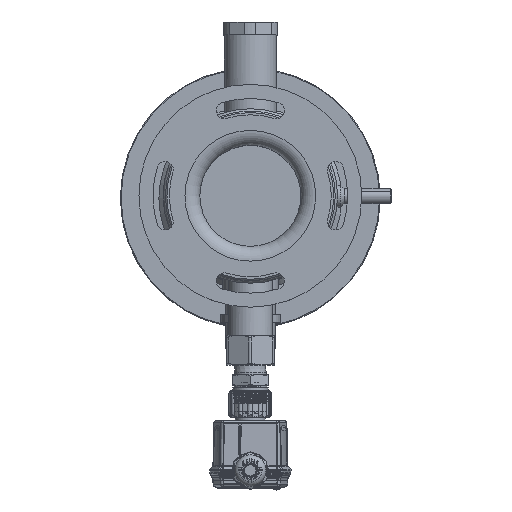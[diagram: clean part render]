
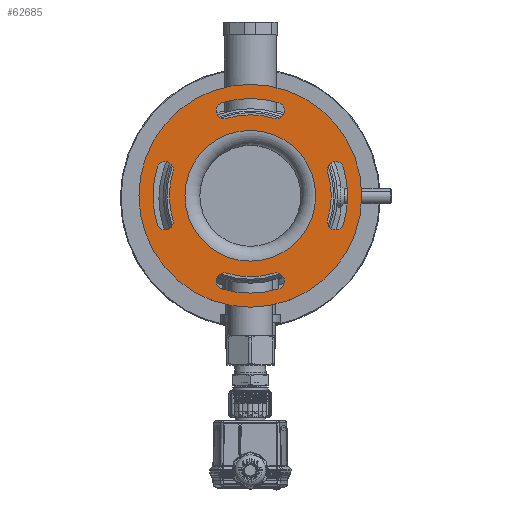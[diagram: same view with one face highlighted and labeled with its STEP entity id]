
A CAD part, top view. The second image highlights one B-rep face of the part: STEP entity #62685.
In plain terms, the highlighted planar face has unit normal (0, 0, 1).
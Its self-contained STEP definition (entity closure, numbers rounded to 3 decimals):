
#1534=FACE_BOUND('',#11766,.T.);
#1535=FACE_BOUND('',#11767,.T.);
#1536=FACE_BOUND('',#11768,.T.);
#1537=FACE_BOUND('',#11769,.T.);
#1538=FACE_BOUND('',#11770,.T.);
#5927=PLANE('',#66194);
#7911=FACE_OUTER_BOUND('',#11765,.T.);
#11765=EDGE_LOOP('',(#47229));
#11766=EDGE_LOOP('',(#47230,#47231,#47232,#47233));
#11767=EDGE_LOOP('',(#47234,#47235,#47236,#47237));
#11768=EDGE_LOOP('',(#47238,#47239,#47240,#47241));
#11769=EDGE_LOOP('',(#47242,#47243,#47244,#47245));
#11770=EDGE_LOOP('',(#47246));
#21691=CIRCLE('',#66161,75.);
#21718=CIRCLE('',#66193,44.);
#21719=CIRCLE('',#66195,5.5);
#21720=CIRCLE('',#66196,65.5);
#21721=CIRCLE('',#66197,5.5);
#21722=CIRCLE('',#66198,54.5);
#21723=CIRCLE('',#66199,5.5);
#21724=CIRCLE('',#66200,65.5);
#21725=CIRCLE('',#66201,5.5);
#21726=CIRCLE('',#66202,54.5);
#21727=CIRCLE('',#66203,5.5);
#21728=CIRCLE('',#66204,65.5);
#21729=CIRCLE('',#66205,5.5);
#21730=CIRCLE('',#66206,54.5);
#21731=CIRCLE('',#66207,5.5);
#21732=CIRCLE('',#66208,65.5);
#21733=CIRCLE('',#66209,5.5);
#21734=CIRCLE('',#66210,54.5);
#26575=VERTEX_POINT('',#116081);
#26600=VERTEX_POINT('',#116140);
#26601=VERTEX_POINT('',#116144);
#26602=VERTEX_POINT('',#116145);
#26603=VERTEX_POINT('',#116147);
#26604=VERTEX_POINT('',#116149);
#26605=VERTEX_POINT('',#116152);
#26606=VERTEX_POINT('',#116153);
#26607=VERTEX_POINT('',#116155);
#26608=VERTEX_POINT('',#116157);
#26609=VERTEX_POINT('',#116160);
#26610=VERTEX_POINT('',#116161);
#26611=VERTEX_POINT('',#116163);
#26612=VERTEX_POINT('',#116165);
#26613=VERTEX_POINT('',#116168);
#26614=VERTEX_POINT('',#116169);
#26615=VERTEX_POINT('',#116171);
#26616=VERTEX_POINT('',#116173);
#33832=EDGE_CURVE('',#26575,#26575,#21691,.T.);
#33862=EDGE_CURVE('',#26600,#26600,#21718,.T.);
#33863=EDGE_CURVE('',#26601,#26602,#21719,.T.);
#33864=EDGE_CURVE('',#26602,#26603,#21720,.T.);
#33865=EDGE_CURVE('',#26603,#26604,#21721,.T.);
#33866=EDGE_CURVE('',#26604,#26601,#21722,.T.);
#33867=EDGE_CURVE('',#26605,#26606,#21723,.T.);
#33868=EDGE_CURVE('',#26606,#26607,#21724,.T.);
#33869=EDGE_CURVE('',#26607,#26608,#21725,.T.);
#33870=EDGE_CURVE('',#26608,#26605,#21726,.T.);
#33871=EDGE_CURVE('',#26609,#26610,#21727,.T.);
#33872=EDGE_CURVE('',#26610,#26611,#21728,.T.);
#33873=EDGE_CURVE('',#26611,#26612,#21729,.T.);
#33874=EDGE_CURVE('',#26612,#26609,#21730,.T.);
#33875=EDGE_CURVE('',#26613,#26614,#21731,.T.);
#33876=EDGE_CURVE('',#26614,#26615,#21732,.T.);
#33877=EDGE_CURVE('',#26615,#26616,#21733,.T.);
#33878=EDGE_CURVE('',#26616,#26613,#21734,.T.);
#47229=ORIENTED_EDGE('',*,*,#33832,.T.);
#47230=ORIENTED_EDGE('',*,*,#33863,.T.);
#47231=ORIENTED_EDGE('',*,*,#33864,.T.);
#47232=ORIENTED_EDGE('',*,*,#33865,.T.);
#47233=ORIENTED_EDGE('',*,*,#33866,.T.);
#47234=ORIENTED_EDGE('',*,*,#33867,.T.);
#47235=ORIENTED_EDGE('',*,*,#33868,.T.);
#47236=ORIENTED_EDGE('',*,*,#33869,.T.);
#47237=ORIENTED_EDGE('',*,*,#33870,.T.);
#47238=ORIENTED_EDGE('',*,*,#33871,.T.);
#47239=ORIENTED_EDGE('',*,*,#33872,.T.);
#47240=ORIENTED_EDGE('',*,*,#33873,.T.);
#47241=ORIENTED_EDGE('',*,*,#33874,.T.);
#47242=ORIENTED_EDGE('',*,*,#33875,.T.);
#47243=ORIENTED_EDGE('',*,*,#33876,.T.);
#47244=ORIENTED_EDGE('',*,*,#33877,.T.);
#47245=ORIENTED_EDGE('',*,*,#33878,.T.);
#47246=ORIENTED_EDGE('',*,*,#33862,.F.);
#62685=ADVANCED_FACE('',(#7911,#1534,#1535,#1536,#1537,#1538),#5927,.T.);
#66161=AXIS2_PLACEMENT_3D('',#116082,#74554,#74555);
#66193=AXIS2_PLACEMENT_3D('',#116142,#74621,#74622);
#66194=AXIS2_PLACEMENT_3D('',#116143,#74623,#74624);
#66195=AXIS2_PLACEMENT_3D('',#116146,#74625,#74626);
#66196=AXIS2_PLACEMENT_3D('',#116148,#74627,#74628);
#66197=AXIS2_PLACEMENT_3D('',#116150,#74629,#74630);
#66198=AXIS2_PLACEMENT_3D('',#116151,#74631,#74632);
#66199=AXIS2_PLACEMENT_3D('',#116154,#74633,#74634);
#66200=AXIS2_PLACEMENT_3D('',#116156,#74635,#74636);
#66201=AXIS2_PLACEMENT_3D('',#116158,#74637,#74638);
#66202=AXIS2_PLACEMENT_3D('',#116159,#74639,#74640);
#66203=AXIS2_PLACEMENT_3D('',#116162,#74641,#74642);
#66204=AXIS2_PLACEMENT_3D('',#116164,#74643,#74644);
#66205=AXIS2_PLACEMENT_3D('',#116166,#74645,#74646);
#66206=AXIS2_PLACEMENT_3D('',#116167,#74647,#74648);
#66207=AXIS2_PLACEMENT_3D('',#116170,#74649,#74650);
#66208=AXIS2_PLACEMENT_3D('',#116172,#74651,#74652);
#66209=AXIS2_PLACEMENT_3D('',#116174,#74653,#74654);
#66210=AXIS2_PLACEMENT_3D('',#116175,#74655,#74656);
#74554=DIRECTION('center_axis',(0.,0.,
1.));
#74555=DIRECTION('ref_axis',(-1.,0.,0.));
#74621=DIRECTION('center_axis',(0.,0.,
1.));
#74622=DIRECTION('ref_axis',(-1.,0.,0.));
#74623=DIRECTION('center_axis',(0.,0.,
1.));
#74624=DIRECTION('ref_axis',(0.,1.,0.));
#74625=DIRECTION('center_axis',(0.,0.,
-1.));
#74626=DIRECTION('ref_axis',(-0.292,0.957,0.));
#74627=DIRECTION('center_axis',(0.,0.,
-1.));
#74628=DIRECTION('ref_axis',(0.292,0.957,0.));
#74629=DIRECTION('center_axis',(0.,0.,
-1.));
#74630=DIRECTION('ref_axis',(-0.292,-0.957,0.));
#74631=DIRECTION('center_axis',(0.,0.,
1.));
#74632=DIRECTION('ref_axis',(-0.292,-0.957,0.));
#74633=DIRECTION('center_axis',(0.,0.,
-1.));
#74634=DIRECTION('ref_axis',(0.292,-0.957,0.));
#74635=DIRECTION('center_axis',(0.,0.,
-1.));
#74636=DIRECTION('ref_axis',(-0.292,-0.957,0.));
#74637=DIRECTION('center_axis',(0.,0.,
-1.));
#74638=DIRECTION('ref_axis',(0.292,0.957,0.));
#74639=DIRECTION('center_axis',(0.,0.,
1.));
#74640=DIRECTION('ref_axis',(0.292,0.957,0.));
#74641=DIRECTION('center_axis',(0.,0.,
-1.));
#74642=DIRECTION('ref_axis',(0.957,0.292,0.));
#74643=DIRECTION('center_axis',(0.,0.,
-1.));
#74644=DIRECTION('ref_axis',(0.957,-0.292,0.));
#74645=DIRECTION('center_axis',(0.,0.,
-1.));
#74646=DIRECTION('ref_axis',(-0.957,0.292,0.));
#74647=DIRECTION('center_axis',(0.,0.,
1.));
#74648=DIRECTION('ref_axis',(-0.957,0.292,0.));
#74649=DIRECTION('center_axis',(0.,0.,
-1.));
#74650=DIRECTION('ref_axis',(-0.957,-0.292,0.));
#74651=DIRECTION('center_axis',(0.,0.,
-1.));
#74652=DIRECTION('ref_axis',(-0.957,0.292,0.));
#74653=DIRECTION('center_axis',(0.,0.,
-1.));
#74654=DIRECTION('ref_axis',(0.957,-0.292,0.));
#74655=DIRECTION('center_axis',(0.,0.,
1.));
#74656=DIRECTION('ref_axis',(0.957,-0.292,0.));
#116081=CARTESIAN_POINT('',(75.,0.,70.5));
#116082=CARTESIAN_POINT('Origin',(0.,0.,
70.5));
#116140=CARTESIAN_POINT('',(0.,-44.,70.5));
#116142=CARTESIAN_POINT('Origin',(0.,0.,
70.5));
#116143=CARTESIAN_POINT('Origin',(-44.,0.,
70.5));
#116144=CARTESIAN_POINT('',(-15.896,52.13,70.5));
#116145=CARTESIAN_POINT('',(-19.104,62.652,70.5));
#116146=CARTESIAN_POINT('Origin',(-17.5,57.391,70.5));
#116147=CARTESIAN_POINT('',(19.104,62.652,70.5));
#116148=CARTESIAN_POINT('Origin',(0.,0.,
70.5));
#116149=CARTESIAN_POINT('',(15.896,52.13,70.5));
#116150=CARTESIAN_POINT('Origin',(17.5,57.391,70.5));
#116151=CARTESIAN_POINT('Origin',(0.,0.,
70.5));
#116152=CARTESIAN_POINT('',(15.896,-52.13,70.5));
#116153=CARTESIAN_POINT('',(19.104,-62.652,70.5));
#116154=CARTESIAN_POINT('Origin',(17.5,-57.391,70.5));
#116155=CARTESIAN_POINT('',(-19.104,-62.652,70.5));
#116156=CARTESIAN_POINT('Origin',(0.,0.,
70.5));
#116157=CARTESIAN_POINT('',(-15.896,-52.13,70.5));
#116158=CARTESIAN_POINT('Origin',(-17.5,-57.391,70.5));
#116159=CARTESIAN_POINT('Origin',(0.,0.,
70.5));
#116160=CARTESIAN_POINT('',(52.13,15.896,70.5));
#116161=CARTESIAN_POINT('',(62.652,19.104,70.5));
#116162=CARTESIAN_POINT('Origin',(57.391,17.5,70.5));
#116163=CARTESIAN_POINT('',(62.652,-19.104,70.5));
#116164=CARTESIAN_POINT('Origin',(0.,0.,
70.5));
#116165=CARTESIAN_POINT('',(52.13,-15.896,70.5));
#116166=CARTESIAN_POINT('Origin',(57.391,-17.5,70.5));
#116167=CARTESIAN_POINT('Origin',(0.,0.,
70.5));
#116168=CARTESIAN_POINT('',(-52.13,-15.896,70.5));
#116169=CARTESIAN_POINT('',(-62.652,-19.104,70.5));
#116170=CARTESIAN_POINT('Origin',(-57.391,-17.5,70.5));
#116171=CARTESIAN_POINT('',(-62.652,19.104,70.5));
#116172=CARTESIAN_POINT('Origin',(0.,0.,
70.5));
#116173=CARTESIAN_POINT('',(-52.13,15.896,70.5));
#116174=CARTESIAN_POINT('Origin',(-57.391,17.5,70.5));
#116175=CARTESIAN_POINT('Origin',(0.,0.,
70.5));
